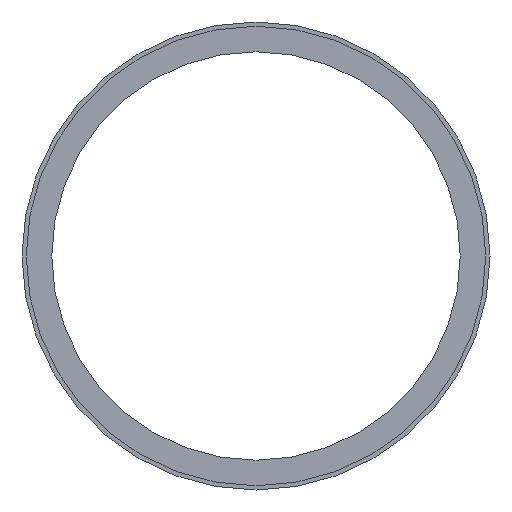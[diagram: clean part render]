
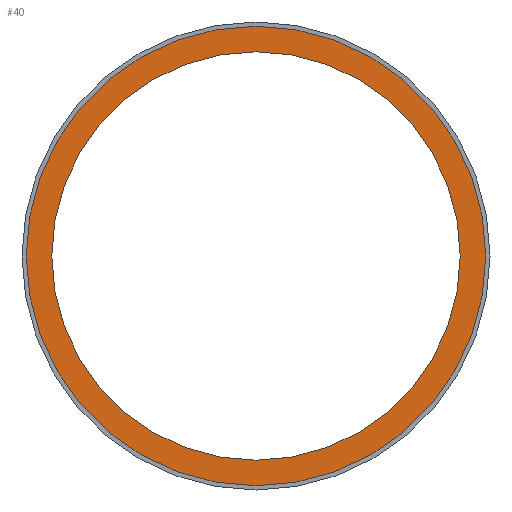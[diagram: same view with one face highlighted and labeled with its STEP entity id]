
A CAD part, front view. The second image highlights one B-rep face of the part: STEP entity #40.
In plain terms, the highlighted planar face has unit normal (0, -1, 0).
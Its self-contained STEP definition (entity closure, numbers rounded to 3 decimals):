
#40 = ADVANCED_FACE( '', ( #81, #82 ), #83, .F. );
#81 = FACE_OUTER_BOUND( '', #120, .T. );
#82 = FACE_BOUND( '', #121, .T. );
#83 = PLANE( '', #122 );
#120 = EDGE_LOOP( '', ( #161 ) );
#121 = EDGE_LOOP( '', ( #162 ) );
#122 = AXIS2_PLACEMENT_3D( '', #163, #164, #165 );
#161 = ORIENTED_EDGE( '', *, *, #191, .T. );
#162 = ORIENTED_EDGE( '', *, *, #186, .F. );
#163 = CARTESIAN_POINT( '', ( 0., 0., 27.5 ) );
#164 = DIRECTION( '', ( 0., 1., 0. ) );
#165 = DIRECTION( '', ( 0., 0., 1. ) );
#186 = EDGE_CURVE( '', #203, #203, #204, .T. );
#191 = EDGE_CURVE( '', #211, #211, #212, .T. );
#203 = VERTEX_POINT( '', #227 );
#204 = CIRCLE( '', #228, 24. );
#211 = VERTEX_POINT( '', #235 );
#212 = CIRCLE( '', #236, 27. );
#227 = CARTESIAN_POINT( '', ( 0., 0., -24. ) );
#228 = AXIS2_PLACEMENT_3D( '', #251, #252, #253 );
#235 = CARTESIAN_POINT( '', ( 0., 0., -27. ) );
#236 = AXIS2_PLACEMENT_3D( '', #260, #261, #262 );
#251 = CARTESIAN_POINT( '', ( 0., 0., 0. ) );
#252 = DIRECTION( '', ( 0., -1., 0. ) );
#253 = DIRECTION( '', ( 0., 0., -1. ) );
#260 = CARTESIAN_POINT( '', ( 0., 0., 0. ) );
#261 = DIRECTION( '', ( 0., -1., 0. ) );
#262 = DIRECTION( '', ( 0., 0., -1. ) );
